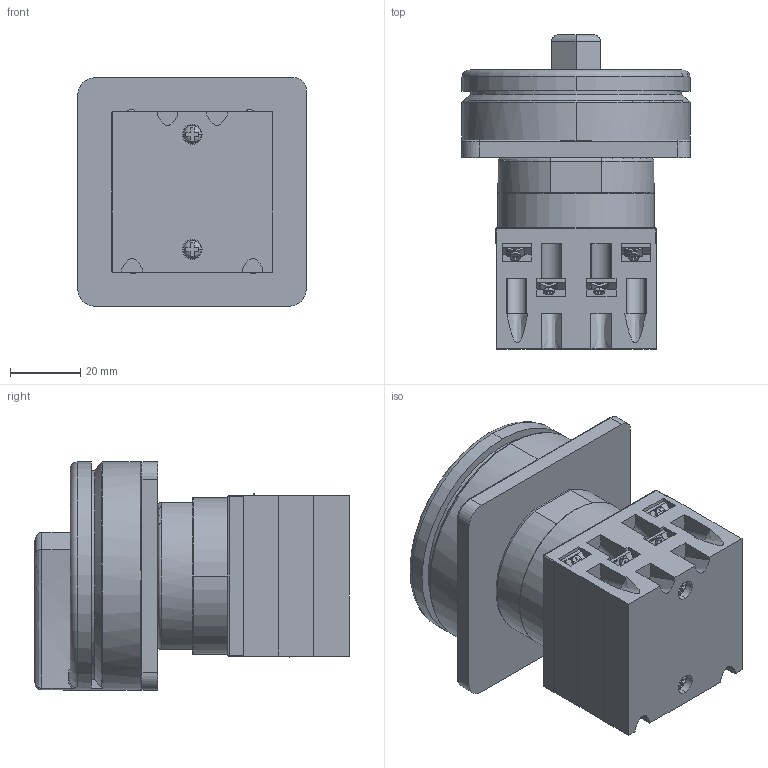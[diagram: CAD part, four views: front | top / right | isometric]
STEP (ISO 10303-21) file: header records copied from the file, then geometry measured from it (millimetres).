
FILE_DESCRIPTION((''),'2;1');
FILE_NAME('20A_SW0001','2023-07-12T',('xiaokai.shi'),(''),'PRO/ENGINEER BY PARAMETRIC TECHNOLOGY CORPORATION, 2015440','PRO/ENGINEER BY PARAMETRIC TECHNOLOGY CORPORATION, 2015440','');
FILE_SCHEMA(('CONFIG_CONTROL_DESIGN'));
Length unit declared in the file: millimetre
Products named in the file (1): 20A_SW0001
Bounding box: 65.1 x 89.5 x 65.1 mm (x, y, z)
Surface area: 32656.4 mm2 (no closed solid volume)
Topology: 0 solids, 1 shells, 572 faces, 1580 edges, 1031 vertices
Faces by surface type: plane 395, cylinder 121, extrusion 20, torus 13, bspline 12, revolution 6, sphere 4, cone 1
Entity records: 21489 total; most frequent: CARTESIAN_POINT 7113, ORIENTED_EDGE 3160, DIRECTION 2651, EDGE_CURVE 1580, VECTOR 1167, LINE 1147, VERTEX_POINT 1031, AXIS2_PLACEMENT_3D 739
